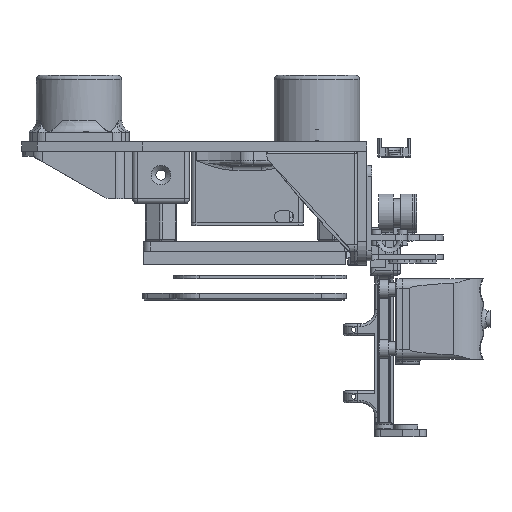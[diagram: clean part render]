
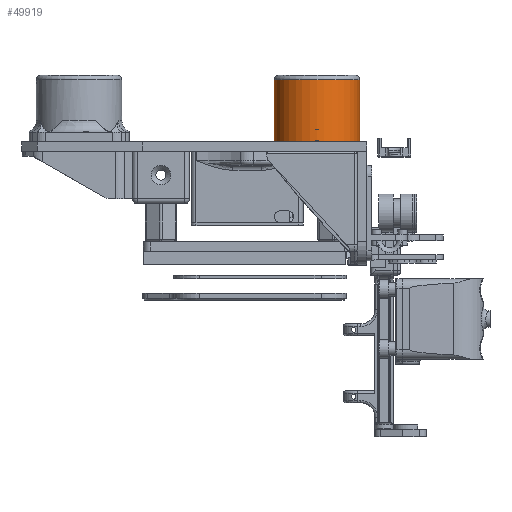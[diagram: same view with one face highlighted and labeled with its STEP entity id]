
A CAD part, front view. The second image highlights one B-rep face of the part: STEP entity #49919.
In plain terms, the highlighted cylindrical face has radius 18 mm (diameter 36 mm), a partial arc.
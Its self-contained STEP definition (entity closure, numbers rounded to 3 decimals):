
#976=CYLINDRICAL_SURFACE('',#52967,18.);
#4668=FACE_OUTER_BOUND('',#7601,.T.);
#7601=EDGE_LOOP('',(#35529,#35530,#35531,#35532));
#11030=LINE('',#99702,#15128);
#11055=LINE('',#99836,#15153);
#15128=VECTOR('',#58821,10.);
#15153=VECTOR('',#58930,10.);
#19176=CIRCLE('',#52945,18.);
#19190=CIRCLE('',#52965,18.);
#22028=VERTEX_POINT('',#99699);
#22029=VERTEX_POINT('',#99701);
#22047=VERTEX_POINT('',#99761);
#22064=VERTEX_POINT('',#99830);
#27143=EDGE_CURVE('',#22028,#22029,#11030,.T.);
#27169=EDGE_CURVE('',#22028,#22047,#19176,.T.);
#27194=EDGE_CURVE('',#22029,#22064,#19190,.T.);
#27196=EDGE_CURVE('',#22047,#22064,#11055,.T.);
#35529=ORIENTED_EDGE('',*,*,#27194,.F.);
#35530=ORIENTED_EDGE('',*,*,#27143,.F.);
#35531=ORIENTED_EDGE('',*,*,#27169,.T.);
#35532=ORIENTED_EDGE('',*,*,#27196,.T.);
#49919=ADVANCED_FACE('',(#4668),#976,.T.);
#52945=AXIS2_PLACEMENT_3D('',#99763,#58873,#58874);
#52965=AXIS2_PLACEMENT_3D('',#99832,#58923,#58924);
#52967=AXIS2_PLACEMENT_3D('',#99835,#58928,#58929);
#58821=DIRECTION('',(0.,0.,1.));
#58873=DIRECTION('center_axis',(0.,0.,1.));
#58874=DIRECTION('ref_axis',(-1.,0.,0.));
#58923=DIRECTION('center_axis',(0.,0.,1.));
#58924=DIRECTION('ref_axis',(0.,-1.,0.));
#58928=DIRECTION('center_axis',(0.,0.,1.));
#58929=DIRECTION('ref_axis',(-1.,0.,0.));
#58930=DIRECTION('',(0.,0.,1.));
#99699=CARTESIAN_POINT('',(473.959,-71.679,-6.));
#99701=CARTESIAN_POINT('',(473.959,-71.679,20.));
#99702=CARTESIAN_POINT('',(473.959,-71.679,18.));
#99761=CARTESIAN_POINT('',(509.959,-71.679,-6.));
#99763=CARTESIAN_POINT('Origin',(491.959,-71.679,-6.));
#99830=CARTESIAN_POINT('',(509.959,-71.679,20.));
#99832=CARTESIAN_POINT('Origin',(491.959,-71.679,20.));
#99835=CARTESIAN_POINT('Origin',(491.959,-71.679,18.));
#99836=CARTESIAN_POINT('',(509.959,-71.679,18.));
